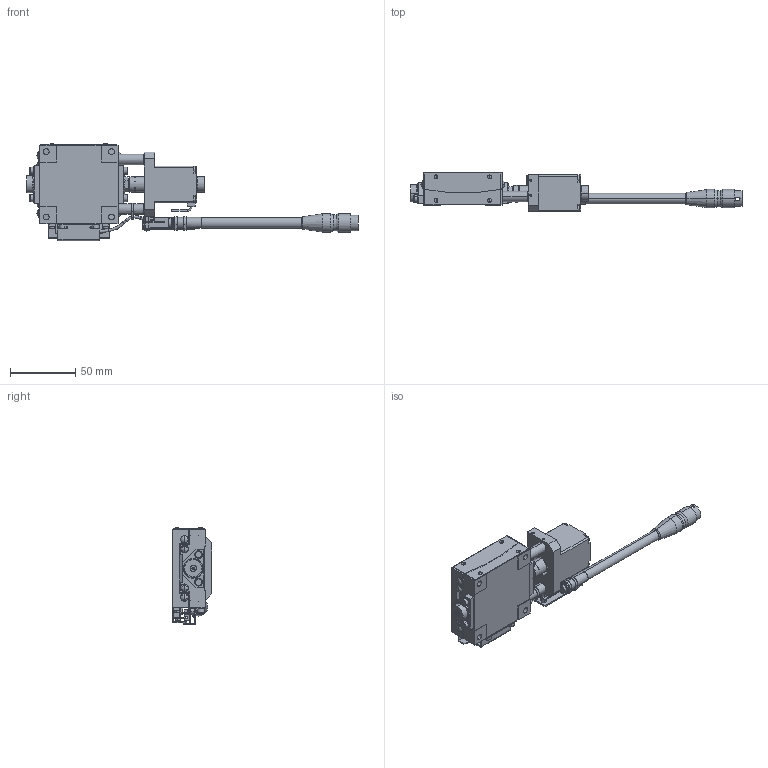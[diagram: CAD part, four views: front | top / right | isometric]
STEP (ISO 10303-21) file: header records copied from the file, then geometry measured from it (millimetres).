
FILE_DESCRIPTION (( 'STEP AP214' ), '1' );
FILE_NAME ('KGB06125T-LT.STEP', '2024-04-17T00:37:54', ( '' ), ( '' ), 'SwSTEP 2.0', 'SolidWorks 2017', '' );
FILE_SCHEMA (( 'AUTOMOTIVE_DESIGN' ));
Length unit declared in the file: millimetre
Products named in the file (5): KGB-BASE-06125-L; KGB-TOP-06125-L; 60-T-12-L; KGB06125T-LT; KGB-60-T-L
Assembly tree (4 placements, depth 2):
  KGB06125T-LT
    KGB-BASE-06125-L
    KGB-TOP-06125-L
    KGB-60-T-L
    60-T-12-L
Bounding box: 253.9 x 30 x 74.3 mm (x, y, z)
Volume: 141419.7 mm3; surface area: 53687.3 mm2
Topology: 4 solids, 39 shells, 1071 faces, 2568 edges, 1646 vertices
Faces by surface type: plane 448, cylinder 413, cone 108, torus 50, sphere 32, bspline 20
Entity records: 32662 total; most frequent: CARTESIAN_POINT 6406, DIRECTION 5772, ORIENTED_EDGE 5080, EDGE_CURVE 2540, AXIS2_PLACEMENT_3D 2234, VERTEX_POINT 1646, VECTOR 1304, LINE 1304
